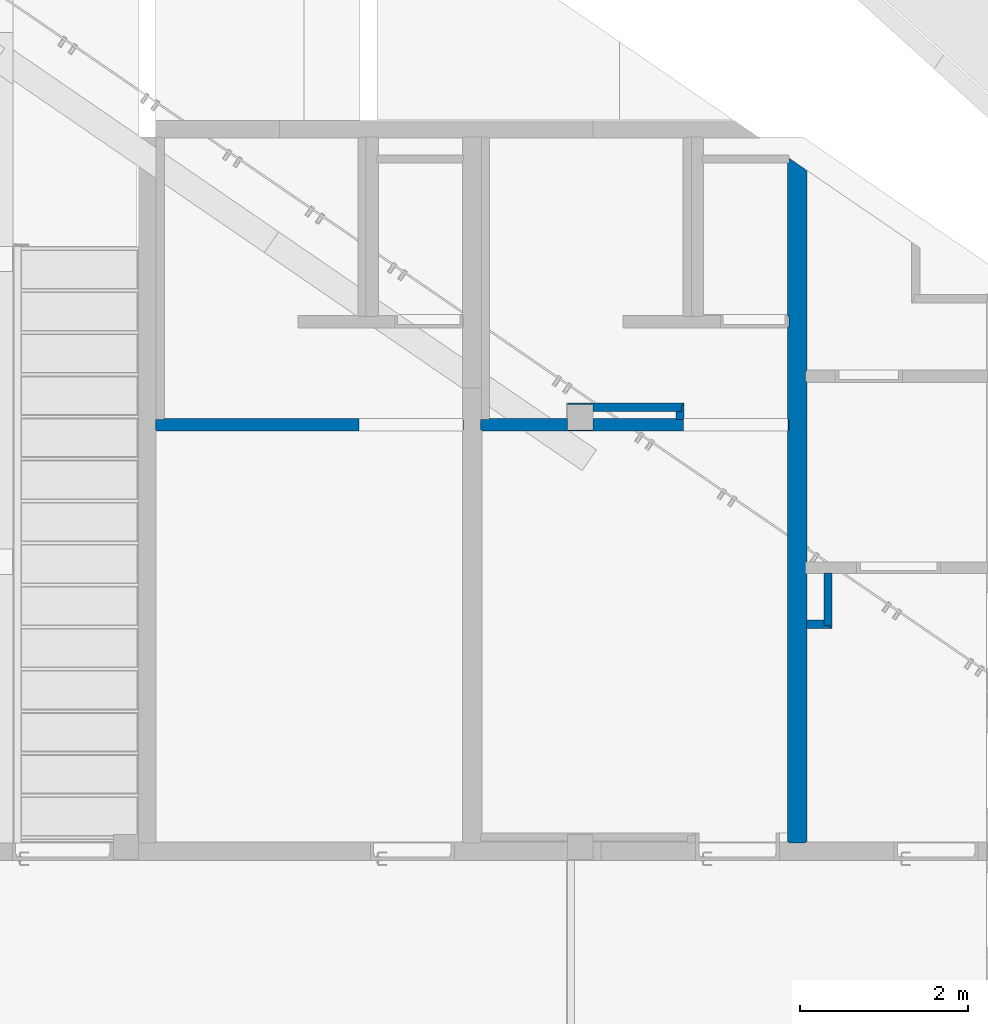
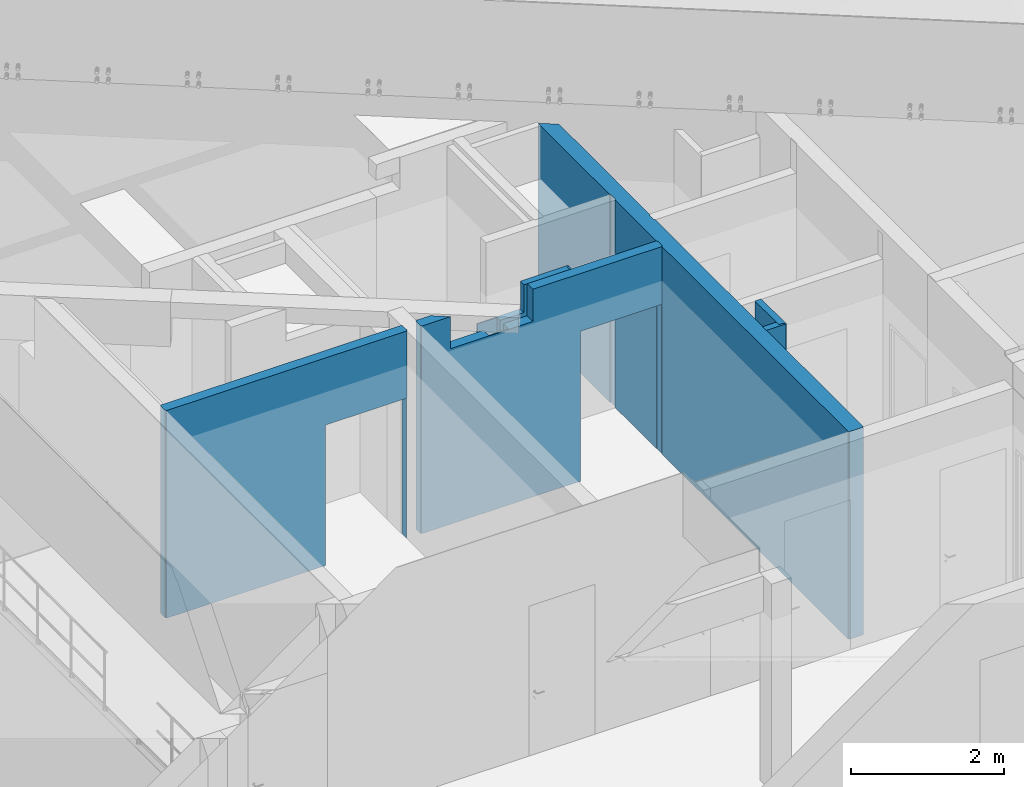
# One storey, part 135 of 246: 6 walls, 2 openings.
"""IFC2X3 building model written with IfcOpenShell, lengths in millimetres."""

import ifcopenshell
import ifcopenshell.guid

model = None  # the IFC model being written
_history = None  # IfcOwnerHistory: only IFC2X3 demands one
_inside = {}  # id of a spatial element -> (the spatial element, [elements in it])
_under = {}  # id of a project, library or spatial element -> (it, [spatial elements below it])
_declared = {}  # id of a project -> (the project, [libraries it declares])
_typed = {}  # id of a type object -> (the type object, [elements of that type])
_made_of = {}  # id of a material, layer set ... -> (it, [elements and type objects made of it])


def new_model(schema):
    """Start an empty IFC model of exactly this schema.

    Asked for "IFC4X3", IfcOpenShell would pick the latest addendum, in which some entities
    have other attributes; the version numbers below select the first issue.
    IFC2X3 requires an IfcOwnerHistory on every rooted entity: one is made here for all.
    """
    global model, _history
    if schema == "IFC4X3":
        model = ifcopenshell.file(schema_version=(4, 3, 0, 0))
    else:
        model = ifcopenshell.file(schema=schema)
    _inside.clear()
    _under.clear()
    _declared.clear()
    _typed.clear()
    _made_of.clear()
    _history = None
    if model.schema == "IFC2X3":
        org = make("IfcOrganization", Name="unknown")
        user = make(
            "IfcPersonAndOrganization",
            ThePerson=make("IfcPerson", FamilyName="unknown"),
            TheOrganization=org,
        )
        app = make(
            "IfcApplication",
            ApplicationDeveloper=org,
            Version="unknown",
            ApplicationFullName="unknown",
            ApplicationIdentifier="unknown",
        )
        _history = make(
            "IfcOwnerHistory",
            OwningUser=user,
            OwningApplication=app,
            ChangeAction="ADDED",
            CreationDate=0,
        )
    return model


def make(cls, **values):
    """One entity of the class cls with the attributes given. An attribute that is None is left unset."""
    return model.create_entity(
        cls, **{name: value for name, value in values.items() if value is not None}
    )


def entity(cls, *values):
    """Any entity or typed value of the class cls, its attributes in the order of the schema. None: left unset."""
    e = model.create_entity(cls)
    for i, value in enumerate(values):
        if value is not None:
            e[i] = value
    return e


def rooted(cls, **values):
    """An entity with a GlobalId (a new one), such as an element, a storey or a relation."""
    return make(cls, GlobalId=ifcopenshell.guid.new(), OwnerHistory=_history, **values)


def si_unit(unit_type, name, prefix=None):
    """IfcSIUnit, for example si_unit("LENGTHUNIT", "METRE", prefix="MILLI")."""
    return make("IfcSIUnit", UnitType=unit_type, Prefix=prefix, Name=name)


def converted_unit(unit_type, name, factor, base, dimensions=None, offset=None):
    """IfcConversionBasedUnit, such as the inch: factor (a typed value) times the base unit."""
    return make(
        "IfcConversionBasedUnit"
        if offset is None
        else "IfcConversionBasedUnitWithOffset",
        ConversionOffset=offset,
        Dimensions=None
        if dimensions is None
        else entity("IfcDimensionalExponents", *dimensions),
        UnitType=unit_type,
        Name=name,
        ConversionFactor=make(
            "IfcMeasureWithUnit", ValueComponent=factor, UnitComponent=base
        ),
    )


def derived_unit(unit_type, elements):
    """IfcDerivedUnit: a product of units, each with its exponent."""
    return make(
        "IfcDerivedUnit",
        Elements=[
            make("IfcDerivedUnitElement", Unit=unit, Exponent=power)
            for unit, power in elements
        ],
        UnitType=unit_type,
    )


def money_unit(currency):
    """IfcMonetaryUnit."""
    return make("IfcMonetaryUnit", Currency=currency)


def assignment(units):
    """IfcUnitAssignment: the units of a project."""
    return None if units is None else make("IfcUnitAssignment", Units=units)


def point(xyz):
    """IfcCartesianPoint."""
    return None if xyz is None else make("IfcCartesianPoint", Coordinates=xyz)


def direction(xyz):
    """IfcDirection."""
    return None if xyz is None else make("IfcDirection", DirectionRatios=xyz)


def frame(location, z_axis=None, x_axis=None):
    """IfcAxis2Placement3D, a coordinate frame: its origin and axes. An axis left out is left unset."""
    return make(
        "IfcAxis2Placement3D",
        Location=point(location),
        Axis=direction(z_axis),
        RefDirection=direction(x_axis),
    )


def origin_with_axes():
    """The frame at (0, 0, 0) with the z axis (0, 0, 1) and the x axis (1, 0, 0) written out."""
    return frame((0.0, 0.0, 0.0), z_axis=(0.0, 0.0, 1.0), x_axis=(1.0, 0.0, 0.0))


def place(relative_to, where):
    """IfcLocalPlacement: puts the frame where relative to a parent placement (None: the world)."""
    return make(
        "IfcLocalPlacement", PlacementRelTo=relative_to, RelativePlacement=where
    )


def context(
    kind, dimensions, precision=None, world=None, true_north=None, identifier=None
):
    """IfcGeometricRepresentationContext, for example the 3D "Model" context."""
    return make(
        "IfcGeometricRepresentationContext",
        ContextIdentifier=identifier,
        ContextType=kind,
        CoordinateSpaceDimension=dimensions,
        Precision=precision,
        WorldCoordinateSystem=world,
        TrueNorth=true_north,
    )


def subcontext(parent, identifier, kind, view, scale=None):
    """IfcGeometricRepresentationSubContext, for example "Body" below "Model"."""
    return make(
        "IfcGeometricRepresentationSubContext",
        ContextIdentifier=identifier,
        ContextType=kind,
        ParentContext=parent,
        TargetScale=scale,
        TargetView=view,
    )


def project(units=None, contexts=None):
    """IfcProject with its units and contexts."""
    return rooted(
        "IfcProject",
        Name="project",
        RepresentationContexts=contexts,
        UnitsInContext=assignment(units),
    )


def spatial(cls, under=None, at=None, **own):
    """A site, building, storey or space (cls), placed at a placement, below another one or the project."""
    s = rooted(cls, ObjectPlacement=at, **own)
    if under is not None:
        _under.setdefault(under.id(), (under, []))[1].append(s)
    return s


def faces_of(points, faces, orient=None, outer=None):
    """IfcFace entities. A face is a list of loops; a loop is a list of indices into points, from 0.

    orient and outer hold one flag for each loop. By default every Orientation is true, the
    first loop of a face is its IfcFaceOuterBound and the others are IfcFaceBound.
    """
    made = []
    for i, loops in enumerate(faces):
        bounds = []
        for j, loop in enumerate(loops):
            is_outer = j == 0 if outer is None else outer[i][j]
            bounds.append(
                make(
                    "IfcFaceOuterBound" if is_outer else "IfcFaceBound",
                    Bound=make("IfcPolyLoop", Polygon=[points[k] for k in loop]),
                    Orientation=True if orient is None else orient[i][j],
                )
            )
        made.append(make("IfcFace", Bounds=bounds))
    return made


def faceted_brep(points, faces, orient=None, outer=None, voids=None):
    """IfcFacetedBrep: a solid bounded by flat faces; with voids (closed shells), ...WithVoids."""
    shared = [point(p) for p in points]
    hull = make("IfcClosedShell", CfsFaces=faces_of(shared, faces, orient, outer))
    if voids is None:
        return make("IfcFacetedBrep", Outer=hull)
    return make(
        "IfcFacetedBrepWithVoids",
        Outer=hull,
        Voids=[
            make(cls, CfsFaces=faces_of(shared, fs, o, b)) for cls, fs, o, b in voids
        ],
    )


def shape(context_of_items, identifier, shape_type, items):
    """IfcShapeRepresentation: the items that make up one representation, for example the "Body"."""
    return make(
        "IfcShapeRepresentation",
        ContextOfItems=context_of_items,
        RepresentationIdentifier=identifier,
        RepresentationType=shape_type,
        Items=items,
    )


def material(Name=None, Category=None):
    """IfcMaterial."""
    return make("IfcMaterial", Name=Name, Category=Category)


def material_list(materials):
    """IfcMaterialList."""
    return make("IfcMaterialList", Materials=materials)


def made_of(thing, what):
    """Note that an element or type object is made of a material, layer set ...; save() writes the relation."""
    if what is not None:
        _made_of.setdefault(what.id(), (what, []))[1].append(thing)
    return thing


def type_object(cls, material=None, **own):
    """A type object (cls), such as IfcWallType, which elements share."""
    return made_of(rooted(cls, **own), material)


def element(
    cls,
    number,
    at=None,
    inside=None,
    cuts=None,
    type_object=None,
    material=None,
    context=None,
    identifier="Body",
    shape_type=None,
    held_by="IfcProductDefinitionShape",
    body=None,
    shapes=None,
    **own,
):
    """One element of the class cls, such as IfcWall. Its Tag is "e" and its number.

    at: its placement. inside: the storey or other place that contains it. cuts: it is an
    opening in that element (IfcRelVoidsElement). A single representation is given by context,
    identifier, shape_type and body (its items); several are given by shapes. held_by: the class
    of the entity that holds the representations. save() writes the other relations.
    """
    e = rooted(cls, Tag="e%d" % number, ObjectPlacement=at, **own)
    if body is not None:
        shapes = [shape(context, identifier, shape_type, body)]
    if shapes is not None:
        e.Representation = make(held_by, Representations=shapes)
    if inside is not None:
        _inside.setdefault(inside.id(), (inside, []))[1].append(e)
    if cuts is not None:
        rooted(
            "IfcRelVoidsElement", RelatingBuildingElement=cuts, RelatedOpeningElement=e
        )
    if type_object is not None:
        _typed.setdefault(type_object.id(), (type_object, []))[1].append(e)
    return made_of(e, material)


def aggregate(whole, parts):
    """IfcRelAggregates: a whole, such as a stair, and the parts it consists of."""
    return rooted("IfcRelAggregates", RelatingObject=whole, RelatedObjects=parts)


def save(model, path):
    """Write the relations noted so far, then the file.

    IfcRelAggregates (storeys below a building ...), IfcRelContainedInSpatialStructure (elements
    in a storey), IfcRelDefinesByType, IfcRelAssociatesMaterial and IfcRelDeclares: one each for
    every whole, place, type object, material and project.
    """
    for whole, parts in _under.values():
        aggregate(whole, parts)
    for where, things in _inside.values():
        rooted(
            "IfcRelContainedInSpatialStructure",
            RelatedElements=things,
            RelatingStructure=where,
        )
    for kind, things in _typed.values():
        rooted("IfcRelDefinesByType", RelatedObjects=things, RelatingType=kind)
    for what, things in _made_of.values():
        rooted("IfcRelAssociatesMaterial", RelatedObjects=things, RelatingMaterial=what)
    for by, libraries in _declared.values():
        rooted("IfcRelDeclares", RelatingContext=by, RelatedDefinitions=libraries)
    model.write(path)


model = new_model("IFC2X3")

# Units and contexts
model_context = context("Model", 3, precision=0.01, world=origin_with_axes(), true_north=direction((0.0, 1.0)))
body_context = subcontext(model_context, "Body", "Model", "MODEL_VIEW")
ifc_project = project(units=[si_unit("LENGTHUNIT", "METRE", prefix="MILLI"), si_unit("AREAUNIT", "SQUARE_METRE"), si_unit("VOLUMEUNIT", "CUBIC_METRE"), converted_unit("PLANEANGLEUNIT", "DEGREE", entity("IfcPlaneAngleMeasure", 0.0174532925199), si_unit("PLANEANGLEUNIT", "RADIAN"), dimensions=[0, 0, 0, 0, 0, 0, 0]), si_unit("SOLIDANGLEUNIT", "STERADIAN"), money_unit("EUR"), converted_unit("TIMEUNIT", "Year", entity("IfcTimeMeasure", 31556926.0), si_unit("TIMEUNIT", "SECOND"), dimensions=[0, 0, 1, 0, 0, 0, 0]), si_unit("MASSUNIT", "GRAM", prefix="KILO"), si_unit("THERMODYNAMICTEMPERATUREUNIT", "DEGREE_CELSIUS"), si_unit("LUMINOUSINTENSITYUNIT", "LUMEN"), si_unit("ENERGYUNIT", "JOULE", prefix="MEGA"), derived_unit("THERMALCONDUCTANCEUNIT", [(si_unit("POWERUNIT", "WATT"), 1), (si_unit("LENGTHUNIT", "METRE"), -1), (si_unit("THERMODYNAMICTEMPERATUREUNIT", "KELVIN"), -1)]), derived_unit("SPECIFICHEATCAPACITYUNIT", [(si_unit("ENERGYUNIT", "JOULE"), 1), (si_unit("MASSUNIT", "GRAM", prefix="KILO"), -1), (si_unit("THERMODYNAMICTEMPERATUREUNIT", "KELVIN"), -1)]), derived_unit("MASSDENSITYUNIT", [(si_unit("MASSUNIT", "GRAM", prefix="KILO"), 1), (si_unit("VOLUMEUNIT", "CUBIC_METRE"), -1)])], contexts=[model_context])

# Site, building, storey
site_placement = place(None, origin_with_axes())
site = spatial("IfcSite", under=ifc_project, at=site_placement, Name="L.Koidula tn 11b", CompositionType="ELEMENT")
building_placement = place(site_placement, origin_with_axes())
building = spatial("IfcBuilding", under=site, at=building_placement, Name="Rakvere Riigigümnaasium", CompositionType="ELEMENT")
storey_placement = place(building_placement, origin_with_axes())
storey = spatial("IfcBuildingStorey", under=building, at=storey_placement, Name="1.korrus 0,00", CompositionType="ELEMENT", Elevation=0.0)

# Walls
ifc_material_1 = material(Name="Polükarbamiid")
ifc_material_2 = material(Name="siseviimistlus-seinad")
ifc_material_3 = material(Name="Betoon element / plaat")
ifc_material_list_1 = material_list([ifc_material_1, ifc_material_2, ifc_material_3, ifc_material_2, ifc_material_1])
wall_type_1 = type_object("IfcWallType", Name="SS-01-4 230", PredefinedType="NOTDEFINED")
wall_1_placement = place(storey_placement, frame((73829.9981709, 25313.7404003, 0.0), z_axis=(0.0, 0.0, 1.0), x_axis=(0.0, -1.0, 0.0)))
element("IfcWall", 1, at=wall_1_placement, inside=storey, type_object=wall_type_1, material=ifc_material_list_1, Name="Sisesein", context=body_context, shape_type="Brep", body=[
    faceted_brep([(6.85648691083, 10.0, 0.0), (6.85648691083, 10.0, 3325.0), (10.2858813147, 15.0, 3325.0), (10.2858813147, 15.0, 0.0), (2388.8032235, 10.0, 0.0), (2388.8032235, 10.0, 3325.0), (2388.8032235, 15.0, 3325.0), (2388.8032235, 15.0, 0.0)], [[[0, 1, 2, 3]], [[4, 5, 1, 0]], [[5, 6, 2, 1]], [[3, 2, 6, 7]], [[3, 7, 4, 0]], [[7, 6, 5, 4]]]),
    faceted_brep([(2528.8032235, 10.0, 0.0), (2528.8032235, 10.0, 3325.0), (2528.8032235, 15.0, 3325.0), (2528.8032235, 15.0, 0.0), (7993.28487774, 10.0, 0.0), (7993.28487774, 10.0, 3325.0), (7993.28487774, 15.0, 3325.0), (7993.28487774, 15.0, 0.0)], [[[0, 1, 2, 3]], [[4, 5, 1, 0]], [[5, 6, 2, 1]], [[3, 2, 6, 7]], [[3, 7, 4, 0]], [[7, 6, 5, 4]]]),
    faceted_brep([(-0.00230189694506, 0.0, 0.0), (-0.00230189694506, 0.0, 3325.0), (6.85648691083, 10.0, 3325.0), (6.85648691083, 10.0, 0.0), (2398.8032235, 0.0, 0.0), (2398.8032235, 0.0, 3325.0), (2398.8032235, 10.0, 3325.0), (2398.8032235, 10.0, 0.0)], [[[0, 1, 2, 3]], [[4, 5, 1, 0]], [[5, 6, 2, 1]], [[3, 2, 6, 7]], [[3, 7, 4, 0]], [[7, 6, 5, 4]]]),
    faceted_brep([(2518.8032235, 0.0, 0.0), (2518.8032235, 0.0, 3325.0), (2518.8032235, 10.0, 3325.0), (2518.8032235, 10.0, 0.0), (7993.28487774, 0.0, 0.0), (7993.28487774, 0.0, 3325.0), (7993.28487774, 10.0, 3325.0), (7993.28487774, 10.0, 0.0)], [[[0, 1, 2, 3]], [[4, 5, 1, 0]], [[5, 6, 2, 1]], [[3, 2, 6, 7]], [[3, 7, 4, 0]], [[7, 6, 5, 4]]]),
    faceted_brep([(-137.178078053, -200.0, 0.0), (-137.178078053, -200.0, 3325.0), (-0.00230189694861, 0.0, 3325.0), (-0.00230189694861, 0.0, 0.0), (8003.28487774, -200.0, 0.0), (8003.28487774, -200.0, 3325.0), (8003.28487774, 0.0, 3325.0), (8003.28487774, 0.0, 0.0)], [[[0, 1, 2, 3]], [[4, 5, 1, 0]], [[5, 6, 2, 1]], [[3, 2, 6, 7]], [[3, 7, 4, 0]], [[7, 6, 5, 4]]]),
    faceted_brep([(3093.28706353, -210.0, 0.0), (3093.28706353, -210.0, 3325.0), (3093.28706353, -200.0, 3325.0), (3093.28706353, -200.0, 0.0), (7993.28487774, -210.0, 0.0), (7993.28487774, -210.0, 3325.0), (7993.28487774, -200.0, 3325.0), (7993.28487774, -200.0, 0.0)], [[[0, 1, 2, 3]], [[4, 5, 1, 0]], [[5, 6, 2, 1]], [[3, 2, 6, 7]], [[7, 4, 0, 3]], [[7, 6, 5, 4]]]),
    faceted_brep([(1867.29819892, -210.0, 0.0), (1867.29819892, -210.0, 3325.0), (1867.29820188, -200.0, 3325.0), (1867.29820188, -200.0, 0.0), (2973.28706353, -210.0, 0.0), (2973.28706353, -210.0, 3325.0), (2973.28706353, -200.0, 3325.0), (2973.28706353, -200.0, 0.0)], [[[0, 1, 2, 3]], [[4, 5, 1, 0]], [[5, 6, 2, 1]], [[3, 2, 6, 7]], [[7, 4, 0, 3]], [[7, 6, 5, 4]]]),
    faceted_brep([(-144.03686686, -210.0, 0.0), (-144.03686686, -210.0, 3325.0), (-137.178078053, -200.0, 3325.0), (-137.178078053, -200.0, 0.0), (1747.29819892, -210.0, 0.0), (1747.29819892, -210.0, 3325.0), (1747.29820188, -200.0, 3325.0), (1747.29820188, -200.0, 0.0)], [[[0, 1, 2, 3]], [[4, 5, 1, 0]], [[5, 6, 2, 1]], [[3, 2, 6, 7]], [[0, 3, 7, 4]], [[7, 6, 5, 4]]]),
    faceted_brep([(3103.28706353, -215.0, 0.0), (3103.28706353, -215.0, 3325.0), (3103.28706353, -210.0, 3325.0), (3103.28706353, -210.0, 0.0), (7993.28487774, -215.0, 0.0), (7993.28487774, -215.0, 3325.0), (7993.28487774, -210.0, 3325.0), (7993.28487774, -210.0, 0.0)], [[[0, 1, 2, 3]], [[4, 5, 1, 0]], [[5, 6, 2, 1]], [[3, 2, 6, 7]], [[7, 4, 0, 3]], [[7, 6, 5, 4]]]),
    faceted_brep([(1877.29819744, -215.0, 0.0), (1877.29819744, -215.0, 3325.0), (1877.29819892, -210.0, 3325.0), (1877.29819892, -210.0, 0.0), (2963.28706353, -215.0, 0.0), (2963.28706353, -215.0, 3325.0), (2963.28706353, -210.0, 3325.0), (2963.28706353, -210.0, 0.0)], [[[0, 1, 2, 3]], [[4, 5, 1, 0]], [[5, 6, 2, 1]], [[3, 2, 6, 7]], [[7, 4, 0, 3]], [[7, 6, 5, 4]]]),
    faceted_brep([(-147.466261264, -215.0, 0.0), (-147.466261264, -215.0, 3325.0), (-144.03686686, -210.0, 3325.0), (-144.03686686, -210.0, 0.0), (1737.29819744, -215.0, 0.0), (1737.29819744, -215.0, 3325.0), (1737.29819892, -210.0, 3325.0), (1737.29819892, -210.0, 0.0)], [[[0, 1, 2, 3]], [[4, 5, 1, 0]], [[5, 6, 2, 1]], [[3, 2, 6, 7]], [[0, 3, 7, 4]], [[7, 6, 5, 4]]]),
])
ifc_material_4 = material(Name="Kipsplaat-erikõva")
ifc_material_5 = material(Name="Karkass")
ifc_material_list_2 = material_list([ifc_material_1, ifc_material_4, ifc_material_4, ifc_material_5])
wall_type_2 = type_object("IfcWallType", Name="SS-09-1 97", PredefinedType="NOTDEFINED")
wall_2_placement = place(storey_placement, frame((70999.9980729, 22536.7588788, 0.0), z_axis=(0.0, 0.0, 1.0), x_axis=(1.0, 0.0, 0.0)))
element("IfcWall", 2, at=wall_2_placement, inside=storey, type_object=wall_type_2, material=ifc_material_list_2, Name="Sisesein", context=body_context, shape_type="Brep", body=[
    faceted_brep([(0.0, 0.0, 2810.0), (660.000012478, 0.0, 2810.0), (660.000012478, 0.0, 3075.0), (660.0, 0.0, 3255.0), (1384.98925691, 0.0, 3255.0), (1384.98925691, 0.0, 0.0), (0.0, 0.0, 0.0), (0.0, -5.0, 2810.0), (660.000012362, -5.0, 2810.0), (660.000012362, -5.0, 3075.0), (660.0, -5.0, 3255.0), (1384.98925691, -5.0, 3255.0), (1384.98925691, -5.0, 0.0), (0.0, -5.0, 0.0)], [[[0, 1, 2, 3, 4, 5, 6]], [[1, 0, 7, 8]], [[2, 1, 8, 9, 10, 3]], [[4, 3, 10, 11]], [[5, 4, 11, 12]], [[6, 5, 12, 13]], [[7, 0, 6, 13]], [[8, 7, 13, 12, 11, 10, 9]]]),
    faceted_brep([(0.0, -5.0, 0.0), (0.0, -5.0, 2810.0), (660.000012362, -5.0, 2810.0), (660.0, -5.0, 3255.0), (1379.98925691, -5.0, 3255.0), (1379.98925691, -5.0, 0.0), (0.0, -18.0, 0.0), (0.0, -18.0, 2810.0), (660.000012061, -18.0, 2810.0), (660.0, -18.0, 3255.0), (1379.98925691, -18.0, 3255.0), (1379.98925691, -18.0, 0.0)], [[[0, 1, 2, 3, 4, 5]], [[6, 7, 1, 0]], [[8, 2, 1, 7]], [[3, 2, 8, 9]], [[10, 4, 3, 9]], [[11, 5, 4, 10]], [[6, 0, 5, 11]], [[9, 8, 7, 6, 11, 10]]]),
    faceted_brep([(300.0, -18.0, 0.0), (300.0, -18.0, 2810.0), (660.000012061, -18.0, 2810.0), (660.0, -18.0, 3255.0), (1366.98925691, -18.0, 3255.0), (1366.98925691, -18.0, 0.0), (300.0, -30.5, 2810.0), (300.0, -30.5, 0.0), (660.000011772, -30.5, 2810.0), (660.0, -30.5, 3255.0), (1366.98925691, -30.5, 3255.0), (1366.98925691, -30.5, 0.0)], [[[0, 1, 2, 3, 4, 5]], [[6, 1, 0, 7]], [[1, 6, 8, 2]], [[3, 2, 8, 9]], [[10, 4, 3, 9]], [[11, 5, 4, 10]], [[7, 0, 5, 11]], [[6, 7, 11, 10, 9, 8]]]),
    faceted_brep([(300.0, -30.5, 0.0), (300.0, -30.5, 2810.0), (660.000011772, -30.5, 2810.0), (660.0, -30.5, 3255.0), (1354.48925691, -30.5, 3255.0), (1354.48925691, -30.5, 0.0), (300.0, -96.5, 2810.0), (300.0, -96.5, 0.0), (660.000010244, -96.5, 2810.0), (660.0, -96.5, 3255.0), (1354.48925691, -96.5, 3255.0), (1354.48925691, -96.5, 0.0)], [[[0, 1, 2, 3, 4, 5]], [[6, 1, 0, 7]], [[1, 6, 8, 2]], [[3, 2, 8, 9]], [[10, 4, 3, 9]], [[11, 5, 4, 10]], [[7, 0, 5, 11]], [[6, 7, 11, 10, 9, 8]]]),
])
wall_3_placement = place(storey_placement, frame((72384.9873298, 22536.7588788, 0.0), z_axis=(0.0, 0.0, 1.0), x_axis=(0.0, -1.0, 0.0)))
element("IfcWall", 3, at=wall_3_placement, inside=storey, type_object=wall_type_2, material=ifc_material_list_2, Name="Sisesein", context=body_context, shape_type="Brep", body=[
    faceted_brep([(181.305542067, -5.0, 3255.0), (181.305542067, 0.0, 3255.0), (5.0, 0.0, 3255.0), (5.0, -5.0, 3255.0), (181.305542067, -5.0, 0.0), (181.305542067, 0.0, 0.0), (5.0, 0.0, 0.0), (5.0, -5.0, 0.0)], [[[0, 1, 2, 3]], [[1, 0, 4, 5]], [[1, 5, 6, 2]], [[7, 3, 2, 6]], [[4, 0, 3, 7]], [[5, 4, 7, 6]]]),
    faceted_brep([(196.305542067, -18.0, 3255.0), (196.305542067, -5.0, 3255.0), (18.0, -5.0, 3255.0), (18.0, -18.0, 3255.0), (196.305542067, -18.0, 0.0), (196.305542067, -5.0, 0.0), (18.0, -5.0, 0.0), (18.0, -18.0, 0.0)], [[[0, 1, 2, 3]], [[1, 0, 4, 5]], [[1, 5, 6, 2]], [[7, 3, 2, 6]], [[4, 0, 3, 7]], [[5, 4, 7, 6]]]),
    faceted_brep([(196.305542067, -18.0, 3255.0), (30.5, -18.0, 3255.0), (30.5, -30.5, 3255.0), (196.305542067, -30.5, 3255.0), (196.305542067, -18.0, 0.0), (30.5, -18.0, 0.0), (30.5, -30.5, 0.0), (196.305542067, -30.5, 0.0)], [[[0, 1, 2, 3]], [[4, 5, 1, 0]], [[2, 1, 5, 6]], [[3, 2, 6, 7]], [[3, 7, 4, 0]], [[7, 6, 5, 4]]]),
    faceted_brep([(196.305542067, -30.5, 3255.0), (96.5, -30.5, 3255.0), (96.5, -96.5, 3255.0), (196.305542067, -96.5, 3255.0), (196.305542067, -30.5, 0.0), (96.5, -30.5, 0.0), (96.5, -96.5, 0.0), (196.305542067, -96.5, 0.0)], [[[0, 1, 2, 3]], [[4, 5, 1, 0]], [[2, 1, 5, 6]], [[3, 2, 6, 7]], [[3, 7, 4, 0]], [[7, 6, 5, 4]]]),
])
wall_4_placement = place(storey_placement, frame((74047.9981709, 20640.3936423, 0.0), z_axis=(0.0, 0.0, 1.0), x_axis=(0.0, -1.0, 0.0)))
element("IfcWall", 4, at=wall_4_placement, inside=storey, type_object=wall_type_2, material=ifc_material_list_2, Name="Sisesein", context=body_context, shape_type="Brep", body=[
    faceted_brep([(779.501933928, 96.5, 3325.0), (130.0, 96.5, 3325.0), (130.0, 91.5, 3325.0), (779.501933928, 91.5, 3325.0), (779.501933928, 96.5, 0.0), (130.0, 96.5, 0.0), (130.0, 91.5, 0.0), (779.501933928, 91.5, 0.0)], [[[0, 1, 2, 3]], [[4, 5, 1, 0]], [[2, 1, 5, 6]], [[3, 2, 6, 7]], [[3, 7, 4, 0]], [[7, 6, 5, 4]]]),
    faceted_brep([(774.501933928, 91.5, 3325.0), (120.0, 91.5, 3325.0), (120.0, 78.5, 3325.0), (774.501933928, 78.5, 3325.0), (774.501933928, 91.5, 0.0), (120.0, 91.5, 0.0), (120.0, 78.5, 0.0), (774.501933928, 78.5, 0.0)], [[[0, 1, 2, 3]], [[4, 5, 1, 0]], [[2, 1, 5, 6]], [[3, 2, 6, 7]], [[3, 7, 4, 0]], [[7, 6, 5, 4]]]),
    faceted_brep([(761.501933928, 78.5, 3325.0), (120.0, 78.5, 3325.0), (120.0, 66.0, 3325.0), (761.501933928, 66.0, 3325.0), (761.501933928, 78.5, 0.0), (120.0, 78.5, 0.0), (120.0, 66.0, 0.0), (761.501933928, 66.0, 0.0)], [[[0, 1, 2, 3]], [[4, 5, 1, 0]], [[2, 1, 5, 6]], [[3, 2, 6, 7]], [[3, 7, 4, 0]], [[7, 6, 5, 4]]]),
    faceted_brep([(749.001933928, 66.0, 3325.0), (120.0, 66.0, 3325.0), (120.0, 0.0, 3325.0), (749.001933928, 0.0, 3325.0), (749.001933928, 66.0, 0.0), (120.0, 66.0, 0.0), (120.0, 0.0, 0.0), (749.001933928, 0.0, 0.0)], [[[0, 1, 2, 3]], [[4, 5, 1, 0]], [[2, 1, 5, 6]], [[3, 2, 6, 7]], [[3, 7, 4, 0]], [[7, 6, 5, 4]]]),
])
wall_5_placement = place(storey_placement, frame((74047.9981709, 19957.3917083, 0.0), z_axis=(0.0, 0.0, 1.0), x_axis=(-1.0, 0.0, 0.0)))
element("IfcWall", 5, at=wall_5_placement, inside=storey, type_object=wall_type_2, material=ifc_material_list_2, Name="Sisesein", context=body_context, shape_type="Brep", body=[
    faceted_brep([(208.0, 91.5, 3325.0), (208.0, 96.5, 3325.0), (-91.5, 96.5, 3325.0), (-91.5, 91.5, 3325.0), (208.0, 91.5, 0.0), (208.0, 96.5, 0.0), (-91.5, 96.5, 0.0), (-91.5, 91.5, 0.0)], [[[0, 1, 2, 3]], [[0, 4, 5, 1]], [[1, 5, 6, 2]], [[3, 2, 6, 7]], [[4, 0, 3, 7]], [[5, 4, 7, 6]]]),
    faceted_brep([(208.0, 78.5, 3325.0), (208.0, 91.5, 3325.0), (-78.5, 91.5, 3325.0), (-78.5, 78.5, 3325.0), (208.0, 78.5, 0.0), (208.0, 91.5, 0.0), (-78.5, 91.5, 0.0), (-78.5, 78.5, 0.0)], [[[0, 1, 2, 3]], [[0, 4, 5, 1]], [[1, 5, 6, 2]], [[3, 2, 6, 7]], [[4, 0, 3, 7]], [[5, 4, 7, 6]]]),
    faceted_brep([(208.0, 66.0, 3325.0), (208.0, 78.5, 3325.0), (-66.0, 78.5, 3325.0), (-66.0, 66.0, 3325.0), (208.0, 66.0, 0.0), (208.0, 78.5, 0.0), (-66.0, 78.5, 0.0), (-66.0, 66.0, 0.0)], [[[0, 1, 2, 3]], [[0, 4, 5, 1]], [[1, 5, 6, 2]], [[3, 2, 6, 7]], [[4, 0, 3, 7]], [[5, 4, 7, 6]]]),
    faceted_brep([(208.0, 0.0, 3325.0), (208.0, 66.0, 3325.0), (0.0, 66.0, 3325.0), (0.0, 0.0, 3325.0), (208.0, 0.0, 0.0), (208.0, 66.0, 0.0), (0.0, 66.0, 0.0), (0.0, 0.0, 0.0)], [[[0, 1, 2, 3]], [[0, 4, 5, 1]], [[1, 5, 6, 2]], [[3, 2, 6, 7]], [[4, 0, 3, 7]], [[5, 4, 7, 6]]]),
])

# Wall, openings
ifc_material_6 = material(Name="Krohv")
ifc_material_7 = material(Name="Silikaat plokk")
ifc_material_list_3 = material_list([ifc_material_1, ifc_material_6, ifc_material_7, ifc_material_6, ifc_material_1])
wall_type_3 = type_object("IfcWallType", Name="SS-05-2 150", PredefinedType="NOTDEFINED")
wall_6_placement = place(storey_placement, frame((65899.9980729, 22220.4533367, 0.0), z_axis=(0.0, 0.0, 1.0), x_axis=(1.0, 0.0, 0.0)))
wall_6 = element("IfcWall", 6, at=wall_6_placement, inside=storey, type_object=wall_type_3, material=ifc_material_list_3, Name="Sisesein", context=body_context, shape_type="Brep", body=[
    faceted_brep([(4303.87254534, 130.0, 3255.0), (4303.87254534, 130.0, 3325.0), (4079.98925691, 130.0, 3325.0), (4079.98925691, 130.0, 3255.0), (4166.4892571, 130.0, 3255.0), (4166.48925691, 130.0, 0.0), (5100.0, 130.0, 0.0), (5100.0, 130.0, 2810.0), (4303.87254534, 130.0, 2810.0), (4296.58217985, 135.0, 3325.0), (4296.58217985, 135.0, 3255.0), (4079.98925691, 135.0, 3325.0), (4079.98925691, 135.0, 3255.0), (4166.48925711, 135.0, 3255.0), (4166.48925691, 135.0, 0.0), (5100.0, 135.0, 0.0), (5100.0, 135.0, 2810.0), (4296.58217985, 135.0, 2810.0)], [[[0, 1, 2, 3, 4, 5, 6, 7, 8]], [[9, 1, 0, 10]], [[1, 9, 11, 2]], [[12, 3, 2, 11]], [[13, 4, 3, 12]], [[13, 14, 5, 4]], [[5, 14, 15, 6]], [[7, 6, 15, 16]], [[17, 8, 7, 16]], [[10, 0, 8, 17]], [[9, 10, 17, 16, 15, 14, 13, 12, 11]]]),
    faceted_brep([(7715.00009801, 135.0, 3325.0), (7715.00009801, 130.0, 3325.0), (7715.00009801, 130.0, 2400.0), (7715.00009801, 135.0, 2400.0), (5760.0, 130.0, 3325.0), (5760.0, 135.0, 3325.0), (6388.48925691, 130.0, 3255.0), (6479.98925691, 130.0, 3255.0), (6479.98925691, 130.0, 2400.0), (5760.00000816, 130.0, 2810.0), (5400.0, 130.0, 2810.0), (5400.0, 130.0, 0.0), (6388.48925691, 130.0, 0.0), (6479.98925691, 135.0, 2400.0), (6479.98925691, 135.0, 3255.0), (6388.48925691, 135.0, 3255.0), (6388.48925691, 135.0, 0.0), (5400.0, 135.0, 0.0), (5400.0, 135.0, 2810.0), (5760.00000828, 135.0, 2810.0)], [[[0, 1, 2, 3]], [[4, 1, 0, 5]], [[6, 7, 8, 2, 1, 4, 9, 10, 11, 12]], [[2, 8, 13, 3]], [[5, 0, 3, 13, 14, 15, 16, 17, 18, 19]], [[4, 5, 19, 9]], [[7, 6, 15, 14]], [[7, 14, 13, 8]], [[19, 18, 10, 9]], [[11, 10, 18, 17]], [[12, 11, 17, 16]], [[15, 6, 12, 16]]]),
    faceted_brep([(3849.98925691, 135.0, 3325.0), (3849.98925691, 130.0, 3325.0), (3849.98925691, 130.0, 2250.0), (3849.98925691, 135.0, 2250.0), (210.0, 135.0, 3325.0), (210.0, 130.0, 3325.0), (301.5, 130.0, 0.0), (2619.98927912, 130.0, 0.0), (2619.98927912, 130.0, 2250.0), (210.0, 130.0, 3255.0), (301.5, 130.0, 3255.0), (2619.98927912, 135.0, 2250.0), (2619.98927912, 135.0, 0.0), (301.5, 135.0, 0.0), (301.5, 135.0, 3255.0), (210.0, 135.0, 3255.0)], [[[0, 1, 2, 3]], [[4, 5, 1, 0]], [[6, 7, 8, 2, 1, 5, 9, 10]], [[2, 8, 11, 3]], [[0, 3, 11, 12, 13, 14, 15, 4]], [[5, 4, 15, 9]], [[6, 13, 12, 7]], [[8, 7, 12, 11]], [[9, 15, 14, 10]], [[6, 10, 14, 13]]]),
    faceted_brep([(4318.45327631, 120.0, 3255.0), (4318.45327631, 120.0, 3325.0), (4074.98925691, 120.0, 3325.0), (4074.98925679, 120.0, 3255.0), (4166.48925709, 120.0, 3255.0), (4166.48925691, 120.0, 0.0), (5100.0, 120.0, 0.0), (5100.0, 120.0, 2810.0), (4318.45327631, 120.0, 2810.0), (4303.87254534, 130.0, 3325.0), (4303.87254534, 130.0, 3255.0), (4074.98925691, 130.0, 3325.0), (4074.98925678, 130.0, 3255.0), (4166.4892571, 130.0, 3255.0), (4166.48925691, 130.0, 0.0), (5100.0, 130.0, 0.0), (5100.0, 130.0, 2810.0), (4303.87254534, 130.0, 2810.0)], [[[0, 1, 2, 3, 4, 5, 6, 7, 8]], [[9, 1, 0, 10]], [[1, 9, 11, 2]], [[12, 3, 2, 11]], [[13, 4, 3, 12]], [[13, 14, 5, 4]], [[5, 14, 15, 6]], [[7, 6, 15, 16]], [[17, 8, 7, 16]], [[10, 0, 8, 17]], [[9, 10, 17, 16, 15, 14, 13, 12, 11]]]),
    faceted_brep([(7720.00009801, 130.0, 3325.0), (7720.00009801, 120.0, 3325.0), (7720.00009801, 120.0, 2400.0), (7720.00009801, 130.0, 2400.0), (5760.0, 120.0, 3325.0), (5760.0, 130.0, 3325.0), (6388.48925691, 120.0, 3255.0), (6479.98925691, 120.0, 3255.0), (6479.98925691, 120.0, 2400.0), (5760.00000793, 120.0, 2810.0), (5400.0, 120.0, 2810.0), (5400.0, 120.0, 0.0), (6388.48925691, 120.0, 0.0), (6479.98925691, 130.0, 2400.0), (6479.98925691, 130.0, 3255.0), (6388.48925691, 130.0, 3255.0), (6388.48925691, 130.0, 0.0), (5400.0, 130.0, 0.0), (5400.0, 130.0, 2810.0), (5760.00000816, 130.0, 2810.0)], [[[0, 1, 2, 3]], [[4, 1, 0, 5]], [[6, 7, 8, 2, 1, 4, 9, 10, 11, 12]], [[2, 8, 13, 3]], [[5, 0, 3, 13, 14, 15, 16, 17, 18, 19]], [[4, 5, 19, 9]], [[7, 6, 15, 14]], [[7, 14, 13, 8]], [[19, 18, 10, 9]], [[11, 10, 18, 17]], [[12, 11, 17, 16]], [[15, 6, 12, 16]]]),
    faceted_brep([(3854.98925691, 130.0, 3325.0), (3854.98925691, 120.0, 3325.0), (3854.98927912, 120.0, 2250.0), (3854.98927912, 130.0, 2250.0), (210.0, 130.0, 3325.0), (210.0, 120.0, 3325.0), (301.5, 120.0, 0.0), (2619.98927912, 120.0, 0.0), (2619.98927912, 120.0, 2250.0), (210.0, 120.0, 3255.0), (301.5, 120.0, 3255.0), (2619.98927912, 130.0, 2250.0), (2619.98927912, 130.0, 0.0), (301.5, 130.0, 0.0), (301.5, 130.0, 3255.0), (210.0, 130.0, 3255.0)], [[[0, 1, 2, 3]], [[4, 5, 1, 0]], [[6, 7, 8, 2, 1, 5, 9, 10]], [[2, 8, 11, 3]], [[0, 3, 11, 12, 13, 14, 15, 4]], [[5, 4, 15, 9]], [[6, 13, 12, 7]], [[8, 7, 12, 11]], [[9, 15, 14, 10]], [[6, 10, 14, 13]]]),
    faceted_brep([(4493.42204798, 0.0, 3255.0), (4493.42204798, 0.0, 3325.0), (4064.98925691, 0.0, 3325.0), (4064.98925691, 0.0, 0.0), (5100.0, 0.0, 0.0), (5100.0, 0.0, 2810.0), (4493.42204798, 0.0, 2810.0), (4318.45327631, 120.0, 3325.0), (4318.45327631, 120.0, 3255.0), (4064.98925691, 120.0, 3325.0), (4064.98925691, 120.0, 0.0), (5100.0, 120.0, 0.0), (5100.0, 120.0, 2810.0), (4318.45327631, 120.0, 2810.0)], [[[0, 1, 2, 3, 4, 5, 6]], [[7, 1, 0, 8]], [[1, 7, 9, 2]], [[9, 10, 3, 2]], [[3, 10, 11, 4]], [[5, 4, 11, 12]], [[13, 6, 5, 12]], [[8, 0, 6, 13]], [[7, 8, 13, 12, 11, 10, 9]]]),
    faceted_brep([(7720.00009801, 120.0, 0.0), (7720.00009801, 120.0, 2400.0), (6479.98925691, 120.0, 2400.0), (6479.98925691, 120.0, 0.0), (5400.0, 120.0, 0.0), (5400.0, 120.0, 2810.0), (5760.00000793, 120.0, 2810.0), (5760.0, 120.0, 3325.0), (7730.00009801, 120.0, 3325.0), (7730.00009801, 120.0, 0.0), (7720.00009801, 0.0, 0.0), (7720.00009801, 0.0, 2400.0), (6479.98925691, 0.0, 2400.0), (6479.98925691, 0.0, 0.0), (5400.0, 0.0, 0.0), (5400.0, 0.0, 2810.0), (5760.00000515, 0.0, 2810.0), (5760.0, 0.0, 3325.0), (7730.00009801, 0.0, 3325.0), (7730.00009801, 0.0, 0.0)], [[[0, 1, 2, 3, 4, 5, 6, 7, 8, 9]], [[10, 11, 1, 0]], [[11, 12, 2, 1]], [[12, 13, 3, 2]], [[14, 4, 3, 13]], [[14, 15, 5, 4]], [[6, 5, 15, 16]], [[17, 7, 6, 16]], [[17, 18, 8, 7]], [[9, 8, 18, 19]], [[9, 19, 10, 0]], [[13, 12, 11, 10, 19, 18, 17, 16, 15, 14]]]),
    faceted_brep([(3854.98927912, 120.0, 0.0), (3854.98927912, 120.0, 2250.0), (2619.98927912, 120.0, 2250.0), (2619.98927912, 120.0, 0.0), (200.0, 120.0, 0.0), (200.0, 120.0, 3325.0), (3864.98925691, 120.0, 3325.0), (3864.98925691, 120.0, 0.0), (3854.98927912, 0.0, 0.0), (3854.98927912, 0.0, 2250.0), (2619.98927912, 0.0, 2250.0), (2619.98927912, 0.0, 0.0), (200.0, 0.0, 0.0), (200.0, 0.0, 3325.0), (3864.98925691, 0.0, 3325.0), (3864.98925691, 0.0, 0.0)], [[[0, 1, 2, 3, 4, 5, 6, 7]], [[8, 9, 1, 0]], [[9, 10, 2, 1]], [[10, 11, 3, 2]], [[12, 4, 3, 11]], [[12, 13, 5, 4]], [[5, 13, 14, 6]], [[6, 14, 15, 7]], [[7, 15, 8, 0]], [[11, 10, 9, 8, 15, 14, 13, 12]]]),
    faceted_brep([(4508.00277896, -10.0, 3255.0), (4508.00277896, -10.0, 3325.0), (4074.98925691, -10.0, 3325.0), (4074.98925691, -10.0, 0.0), (6479.98925691, -10.0, 0.0), (6479.98925691, -10.0, 2400.0), (7720.00009801, -10.0, 2400.0), (7720.00009801, -10.0, 3325.0), (5760.0, -10.0, 3325.0), (5760.00000492, -10.0, 2810.0), (4508.00277896, -10.0, 2810.0), (4493.42204798, 0.0, 3325.0), (4493.42204798, 0.0, 3255.0), (4074.98925691, 0.0, 3325.0), (4074.98925691, 0.0, 0.0), (5400.0, -1.69445793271, 0.0), (5400.0, 0.0, 0.0), (6479.98925691, 0.0, 0.0), (5100.0, 0.0, 0.0), (5100.0, -1.69445793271, 0.0), (6479.98925691, 0.0, 2400.0), (7720.00009801, 0.0, 2400.0), (7720.00009801, 0.0, 3325.0), (5760.0, 0.0, 3325.0), (5760.00000515, 0.0, 2810.0), (5400.0, 0.0, 2810.0), (5400.0, -1.69445793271, 2810.0), (5100.0, -1.69445793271, 2810.0), (5100.0, 0.0, 2810.0), (4493.42204798, 0.0, 2810.0)], [[[0, 1, 2, 3, 4, 5, 6, 7, 8, 9, 10]], [[11, 1, 0, 12]], [[1, 11, 13, 2]], [[14, 3, 2, 13]], [[15, 16, 17, 4, 3, 14, 18, 19]], [[5, 4, 17, 20]], [[6, 5, 20, 21]], [[22, 7, 6, 21]], [[8, 7, 22, 23]], [[8, 23, 24, 9]], [[10, 9, 24, 25, 26, 27, 28, 29]], [[12, 0, 10, 29]], [[11, 12, 29, 28, 18, 14, 13]], [[15, 26, 25, 16]], [[22, 21, 20, 17, 16, 25, 24, 23]], [[19, 18, 28, 27]], [[19, 27, 26, 15]]]),
    faceted_brep([(3854.98925691, 0.0, 3325.0), (3854.98925691, -10.0, 3325.0), (3854.98927912, -10.0, 2250.0), (3854.98927912, 0.0, 2250.0), (210.0, 0.0, 3325.0), (210.0, -10.0, 3325.0), (210.0, -10.0, 0.0), (2619.98927912, -10.0, 0.0), (2619.98927912, -10.0, 2250.0), (2619.98927912, 0.0, 2250.0), (2619.98927912, 0.0, 0.0), (210.0, 0.0, 0.0)], [[[0, 1, 2, 3]], [[4, 5, 1, 0]], [[6, 7, 8, 2, 1, 5]], [[2, 8, 9, 3]], [[0, 3, 9, 10, 11, 4]], [[6, 5, 4, 11]], [[6, 11, 10, 7]], [[8, 7, 10, 9]]]),
    faceted_brep([(3849.98925691, -10.0, 3325.0), (3849.98925691, -15.0, 3325.0), (3849.98925691, -15.0, 2250.0), (3849.98925691, -10.0, 2250.0), (210.0, -10.0, 3325.0), (210.0, -15.0, 3325.0), (210.0, -15.0, 0.0), (2619.98927912, -15.0, 0.0), (2619.98927912, -15.0, 2250.0), (2619.98927912, -10.0, 2250.0), (2619.98927912, -10.0, 0.0), (210.0, -10.0, 0.0)], [[[0, 1, 2, 3]], [[4, 5, 1, 0]], [[6, 7, 8, 2, 1, 5]], [[2, 8, 9, 3]], [[0, 3, 9, 10, 11, 4]], [[6, 5, 4, 11]], [[6, 11, 10, 7]], [[8, 7, 10, 9]]]),
    faceted_brep([(4515.29314444, -15.0, 3255.0), (4515.29314444, -15.0, 3325.0), (4079.98925691, -15.0, 3325.0), (4079.98925691, -15.0, 0.0), (6479.98925691, -15.0, 0.0), (6479.98925691, -15.0, 2400.0), (7715.00009801, -15.0, 2400.0), (7715.00009801, -15.0, 3325.0), (5760.0, -15.0, 3325.0), (5760.00000481, -15.0, 2810.0), (4515.29314444, -15.0, 2810.0), (4508.00277896, -10.0, 3325.0), (4508.00277896, -10.0, 3255.0), (4079.98925691, -10.0, 3325.0), (4079.98925691, -10.0, 0.0), (6479.98925691, -10.0, 0.0), (6479.98925691, -10.0, 2400.0), (7715.00009801, -10.0, 2400.0), (7715.00009801, -10.0, 3325.0), (5760.0, -10.0, 3325.0), (5760.00000492, -10.0, 2810.0), (4508.00277896, -10.0, 2810.0)], [[[0, 1, 2, 3, 4, 5, 6, 7, 8, 9, 10]], [[11, 1, 0, 12]], [[1, 11, 13, 2]], [[3, 2, 13, 14]], [[3, 14, 15, 4]], [[5, 4, 15, 16]], [[6, 5, 16, 17]], [[18, 7, 6, 17]], [[7, 18, 19, 8]], [[19, 20, 9, 8]], [[9, 20, 21, 10]], [[12, 0, 10, 21]], [[11, 12, 21, 20, 19, 18, 17, 16, 15, 14, 13]]]),
])
opening_1_placement = place(wall_6_placement, frame((3237.48927912, 0.0, 0.0), z_axis=(0.0, 0.0, 1.0), x_axis=(1.0, 0.0, 0.0)))
element("IfcOpeningElement", 7, at=opening_1_placement, cuts=wall_6, Name="ava", context=body_context, shape_type="Brep", body=[
    faceted_brep([(-617.5, -300.0, 0.0), (-617.5, -300.0, 2250.0), (-617.5, 150.0, 2250.0), (-617.5, 150.0, 0.0), (617.5, -300.0, 0.0), (617.5, -300.0, 2250.0), (617.5, 150.0, 2250.0), (617.5, 150.0, 0.0)], [[[0, 1, 2, 3]], [[0, 4, 5, 1]], [[1, 5, 6, 2]], [[3, 2, 6, 7]], [[4, 0, 3, 7]], [[5, 4, 7, 6]]]),
])
opening_2_placement = place(wall_6_placement, frame((7099.99467746, 0.0, 0.0), z_axis=(0.0, 0.0, 1.0), x_axis=(1.0, 0.0, 0.0)))
element("IfcOpeningElement", 8, at=opening_2_placement, cuts=wall_6, Name="ava", context=body_context, shape_type="Brep", body=[
    faceted_brep([(-620.00542055, -300.0, 0.0), (-620.00542055, -300.0, 2400.0), (-620.00542055, 150.0, 2400.0), (-620.00542055, 150.0, 0.0), (620.00542055, -300.0, 0.0), (620.00542055, -300.0, 2400.0), (620.00542055, 150.0, 2400.0), (620.00542055, 150.0, 0.0)], [[[0, 1, 2, 3]], [[0, 4, 5, 1]], [[1, 5, 6, 2]], [[3, 2, 6, 7]], [[4, 0, 3, 7]], [[5, 4, 7, 6]]]),
])

save(model, "model.ifc")
